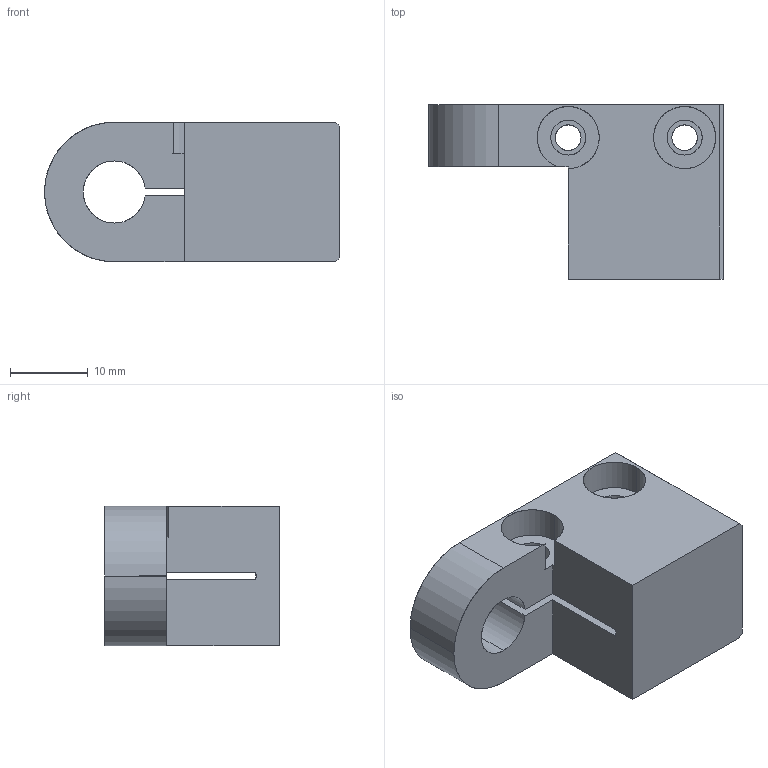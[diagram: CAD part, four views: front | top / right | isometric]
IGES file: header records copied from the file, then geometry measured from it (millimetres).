
Start section: SolidWorks IGES file using analytic representation for surfaces
Global section: file name: C:\Documents and Settings\CAD53\デスクトップ\IGES\N01864-101-1.IGS; native system: SolidWorks 2005 by SolidWorks Corporation; preprocessor: SolidWorks 2005 by SolidWorks Corporation; author: CAD53; date: 070530.111544; units: millimetre
Bounding box: 38 x 22.5 x 18 mm (x, y, z)
Surface area: 4715.3 mm2 (no closed solid volume)
Topology: 0 solids, 0 shells, 34 faces, 703 edges, 703 vertices
Faces by surface type: revolution 19, bspline 15
